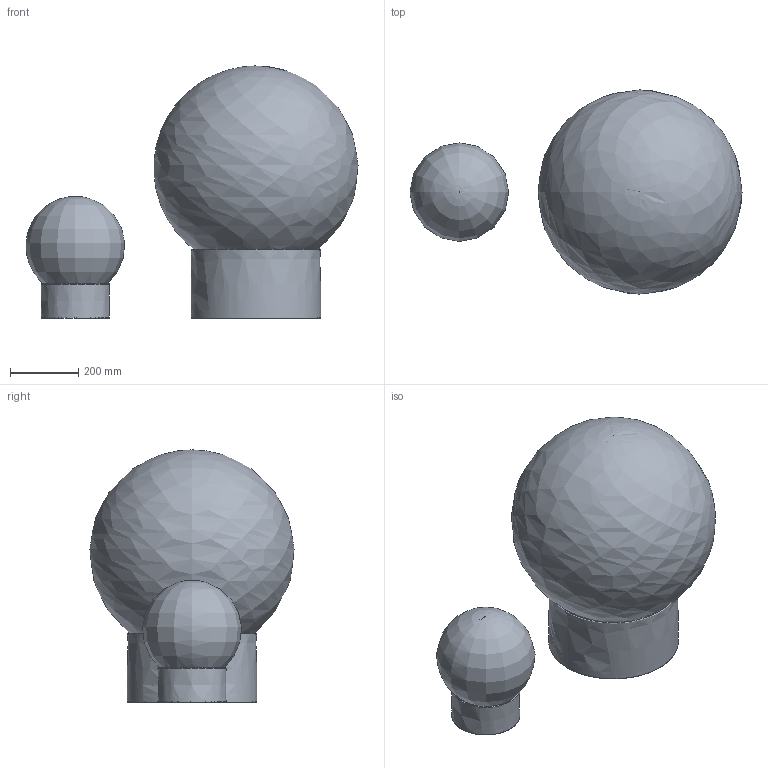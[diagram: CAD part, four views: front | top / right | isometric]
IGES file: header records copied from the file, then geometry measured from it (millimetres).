
Global section: file name: K:\20151119 Boule.igs; native system: Rhinoceros ( Feb 22 2008 ); preprocessor: Trout Lake IGES 012 Feb 22 2008; date: 160223.151027; units: millimetre
Bounding box: 974.58 x 599.37 x 740 mm (x, y, z)
Surface area: 4251314.6 mm2 (no closed solid volume)
Topology: 0 solids, 0 shells, 30 faces, 197 edges, 172 vertices
Faces by surface type: bspline 30
